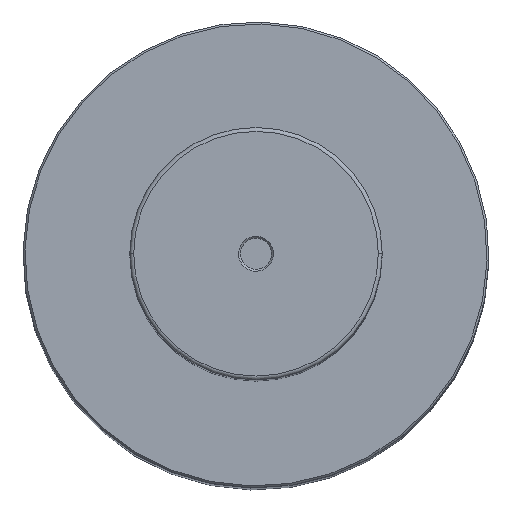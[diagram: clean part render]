
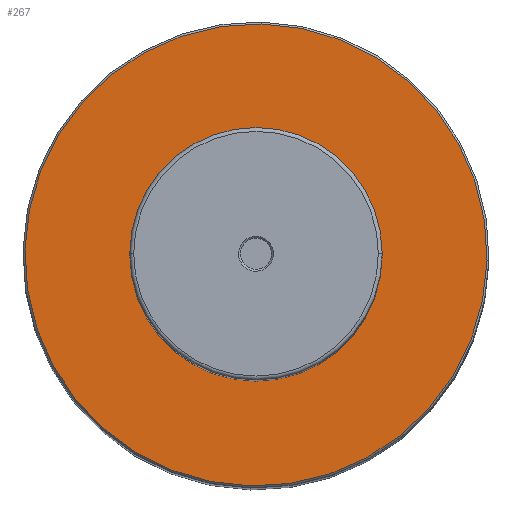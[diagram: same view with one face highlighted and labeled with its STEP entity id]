
A CAD part, top view. The second image highlights one B-rep face of the part: STEP entity #267.
In plain terms, the highlighted planar face has unit normal (0, 0, 1).
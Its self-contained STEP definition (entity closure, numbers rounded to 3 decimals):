
#206=CARTESIAN_POINT('Vertex',(32.5,0.,312.)) ;
#209=CARTESIAN_POINT('Axis2P3D Location',(0.,0.,312.)) ;
#213=CARTESIAN_POINT('Vertex',(-32.5,0.,312.)) ;
#228=CARTESIAN_POINT('Axis2P3D Location',(0.,0.,312.)) ;
#240=CARTESIAN_POINT('Axis2P3D Location',(0.,-60.,312.)) ;
#245=CARTESIAN_POINT('Axis2P3D Location',(0.,0.,312.)) ;
#249=CARTESIAN_POINT('Vertex',(28.526,-52.216,312.)) ;
#251=CARTESIAN_POINT('Vertex',(-28.526,52.216,312.)) ;
#254=CARTESIAN_POINT('Axis2P3D Location',(0.,0.,312.)) ;
#210=DIRECTION('Axis2P3D Direction',(0.,0.,1.)) ;
#229=DIRECTION('Axis2P3D Direction',(0.,0.,1.)) ;
#241=DIRECTION('Axis2P3D Direction',(0.,0.,1.)) ;
#242=DIRECTION('Axis2P3D XDirection',(1.,0.,0.)) ;
#246=DIRECTION('Axis2P3D Direction',(0.,0.,1.)) ;
#255=DIRECTION('Axis2P3D Direction',(0.,0.,1.)) ;
#211=AXIS2_PLACEMENT_3D('Circle Axis2P3D',#209,#210,$) ;
#230=AXIS2_PLACEMENT_3D('Circle Axis2P3D',#228,#229,$) ;
#243=AXIS2_PLACEMENT_3D('Plane Axis2P3D',#240,#241,#242) ;
#247=AXIS2_PLACEMENT_3D('Circle Axis2P3D',#245,#246,$) ;
#256=AXIS2_PLACEMENT_3D('Circle Axis2P3D',#254,#255,$) ;
#260=ORIENTED_EDGE('',*,*,#253,.T.) ;
#261=ORIENTED_EDGE('',*,*,#258,.T.) ;
#264=ORIENTED_EDGE('',*,*,#215,.F.) ;
#265=ORIENTED_EDGE('',*,*,#232,.F.) ;
#266=FACE_BOUND('',#263,.T.) ;
#267=ADVANCED_FACE('',(#262,#266),#244,.T.) ;
#212=CIRCLE('generated circle',#211,32.5) ;
#231=CIRCLE('generated circle',#230,32.5) ;
#248=CIRCLE('generated circle',#247,59.5) ;
#257=CIRCLE('generated circle',#256,59.5) ;
#215=EDGE_CURVE('',#207,#214,#212,.T.) ;
#232=EDGE_CURVE('',#214,#207,#231,.T.) ;
#253=EDGE_CURVE('',#250,#252,#248,.T.) ;
#258=EDGE_CURVE('',#252,#250,#257,.T.) ;
#259=EDGE_LOOP('',(#260,#261)) ;
#263=EDGE_LOOP('',(#264,#265)) ;
#262=FACE_OUTER_BOUND('',#259,.T.) ;
#244=PLANE('Plane',#243) ;
#207=VERTEX_POINT('',#206) ;
#214=VERTEX_POINT('',#213) ;
#250=VERTEX_POINT('',#249) ;
#252=VERTEX_POINT('',#251) ;
